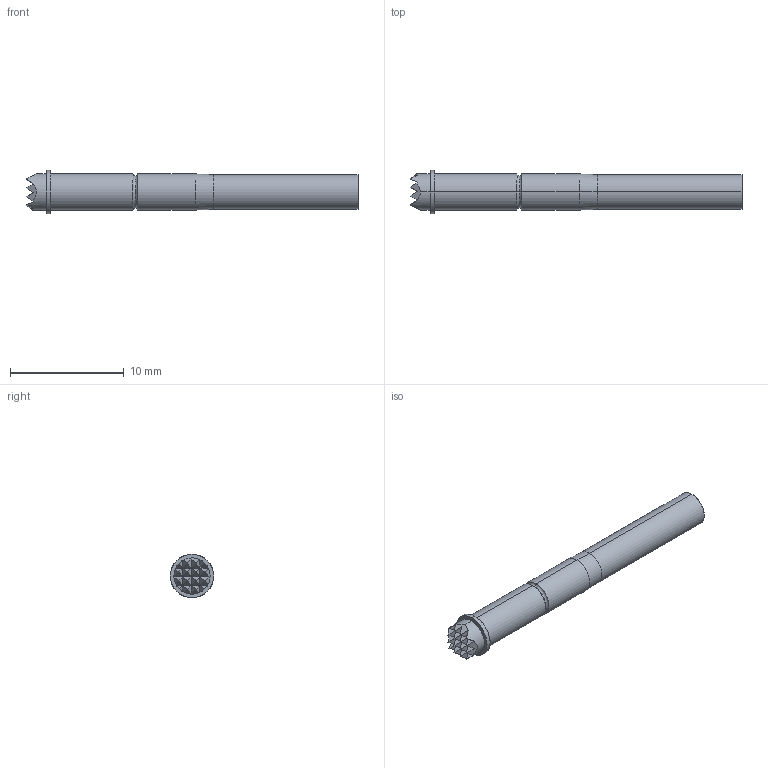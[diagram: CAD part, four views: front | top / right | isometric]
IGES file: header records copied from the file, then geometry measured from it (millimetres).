
Start section: SolidWorks IGES file using analytic representation for surfaces
Global section: file name: O:\PYLON\IGES FILES\P2550\P2550-9 FULL.IGS; native system: SolidWorks 2015; preprocessor: SolidWorks 2015; author: kgolden; date: 171020.115141; units: inch
Bounding box: 29.18 x 3.81 x 3.81 mm (x, y, z)
Surface area: 382.1 mm2 (no closed solid volume)
Topology: 0 solids, 0 shells, 74 faces, 623 edges, 621 vertices
Faces by surface type: bspline 58, revolution 16
